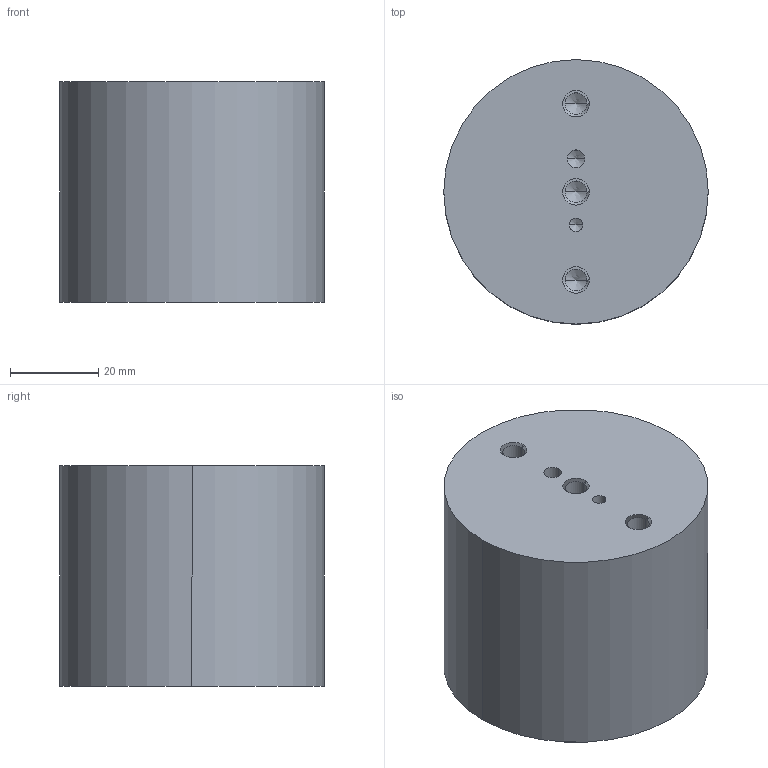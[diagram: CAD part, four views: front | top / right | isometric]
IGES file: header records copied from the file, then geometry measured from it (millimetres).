
Start section: 3D InterOp IGES (v. 2018 1.0.2), Spatial Corp. Copyright (c) 1999-2017.
Global section: file name: V91556-60-50.igs; native system: Spatial Corp.; preprocessor: 3D InterOp GENERIC/IGES 3.0; author: Noname; organization: Noname; date: 20191003.160652; units: metre
Bounding box: 60 x 60 x 50 mm (x, y, z)
Surface area: 15992.4 mm2 (no closed solid volume)
Topology: 0 solids, 0 shells, 39 faces, 162 edges, 152 vertices
Faces by surface type: revolution 34, extrusion 5
